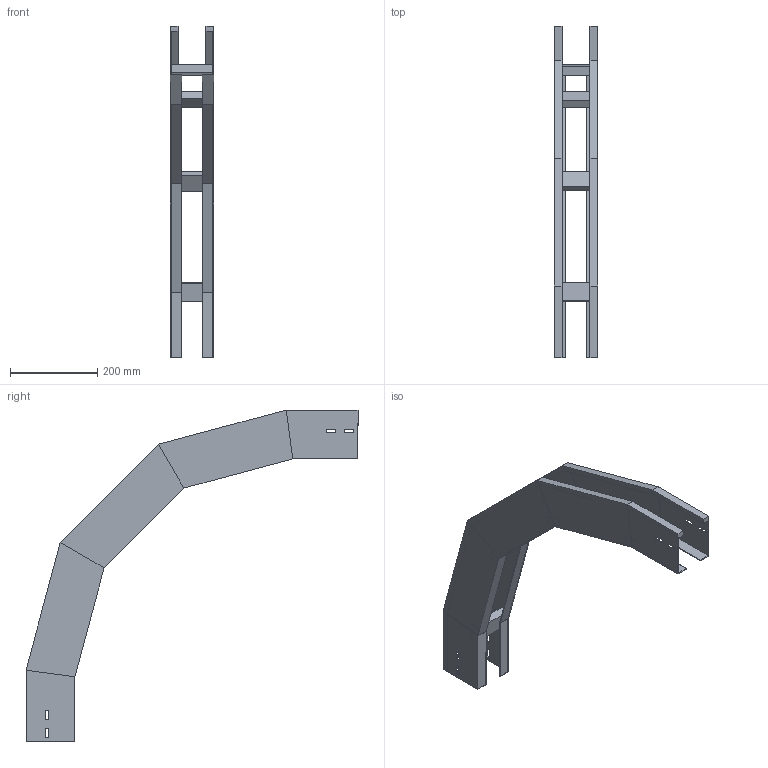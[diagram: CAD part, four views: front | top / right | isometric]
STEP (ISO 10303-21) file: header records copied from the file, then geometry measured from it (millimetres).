
FILE_DESCRIPTION (( 'STEP AP214' ), '1' );
FILE_NAME ('33B5J100.step', '2025-02-21T15:02:51', ( '' ), ( '' ), 'SwSTEP 2.0', 'SolidWorks 2023', '' );
FILE_SCHEMA (( 'AUTOMOTIVE_DESIGN' ));
Length unit declared in the file: millimetre
Products named in the file (3): LONGH.DISCESA_90°_H112.5_R500; TRAVERSINO_100; 33B5J100
Assembly tree (6 placements, depth 2):
  33B5J100
    LONGH.DISCESA_90°_H112.5_R500  x2
    TRAVERSINO_100  x4
Bounding box: 100 x 762.85 x 762.85 mm (x, y, z)
Volume: 1420482 mm3; surface area: 775403.5 mm2
Topology: 6 solids, 6 shells, 140 faces, 320 edges, 192 vertices
Faces by surface type: plane 140
Entity records: 1872 total; most frequent: CARTESIAN_POINT 309, ORIENTED_EDGE 296, DIRECTION 294, VECTOR 148, EDGE_CURVE 148, LINE 148, VERTEX_POINT 88, AXIS2_PLACEMENT_3D 73
